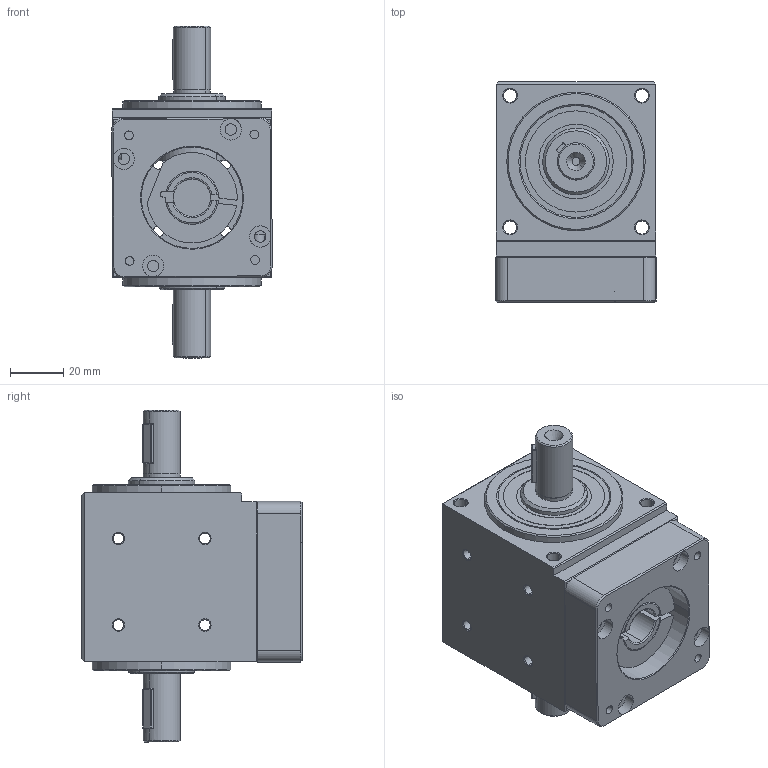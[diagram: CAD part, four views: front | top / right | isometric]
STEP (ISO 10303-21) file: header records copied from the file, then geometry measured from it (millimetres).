
FILE_DESCRIPTION (( 'STEP AP203' ), '1' );
FILE_NAME ('RAD-02¤ñ.STEP', '2018-05-09T01:07:26', ( 'user' ), ( '' ), 'SwSTEP 2.0', 'SolidWorks 2014', '' );
FILE_SCHEMA (( 'CONFIG_CONTROL_DESIGN' ));
Length unit declared in the file: millimetre
Products named in the file (1): RAD-02比
Bounding box: 60.3 x 82.8 x 124.7 mm (x, y, z)
Surface area: 47160.4 mm2 (no closed solid volume)
Topology: 0 solids, 11 shells, 253 faces, 698 edges, 456 vertices
Faces by surface type: cylinder 130, plane 63, cone 50, torus 6, sphere 4
Entity records: 8272 total; most frequent: DIRECTION 1547, CARTESIAN_POINT 1536, ORIENTED_EDGE 1204, EDGE_CURVE 694, AXIS2_PLACEMENT_3D 615, VERTEX_POINT 456, CIRCLE 361, LINE 317
